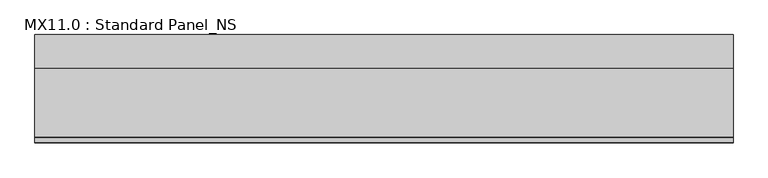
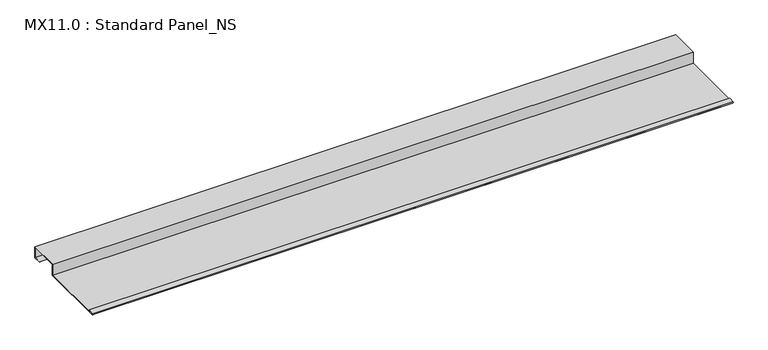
"""IFC4 building model written with IfcOpenShell, lengths in millimetres: proxy geometry, MX11.0 : Standard Panel_NS."""

from ifc_helpers import new_model, si_unit, point, frame, frame_2d, origin, place, context, project, spatial, polyline, circle_curve, trimmed, segment, composite_curve, outline, extrude, source, transform, mapped, element, save


def mx11_0_standard_panel_ns_a8d7d735(model_context):
    return source(origin(), model_context, "Body", "SweptSolid", [
        extrude(outline(composite_curve([segment(polyline([(0.0, 0.0), (-25.0, 0.0), (-25.0, 1.0), (-1.0, 1.0), (-1.0, 37.0), (-99.0, 37.0), (-99.0, -1.0), (-325.0510156, -1.0)]), True, "CONTINUOUS"), segment(trimmed(circle_curve(frame_2d((-324.3094696, 0.9153551)), 2.0538928), [point((-325.0510156, -1.0))], [point((-325.1748462, 2.778041))], False, "CARTESIAN"), True, "CONTINUOUS"), segment(polyline([(-325.1748462, 2.778041), (-308.7874714, 5.923107), (-308.5989911, 4.94103), (-324.8448691, 1.8231201)]), True, "CONTINUOUS"), segment(trimmed(circle_curve(frame_2d((-324.3094696, 0.9153551)), 1.0538928), [point((-324.8448691, 1.8231201))], [point((-324.8317866, 0.0))], True, "CARTESIAN"), True, "CONTINUOUS"), segment(polyline([(-324.8317866, 0.0), (-100.0, 0.0), (-100.0, 38.0), (0.0, 38.0), (0.0, 0.0)]), True, "CONTINUOUS")], self_intersect=False)), frame((0.0, 0.0, 0.0), z_axis=(1.0, 0.0, 0.0), x_axis=(0.0, 1.0, 0.0)), (0.0, 0.0, 1.0), 2100.0),
    ])


if __name__ == "__main__":
    model = new_model("IFC4")
    model_context = context("Model", 3, world=origin())
    ifc_project = project(units=[si_unit("LENGTHUNIT", "METRE", prefix="MILLI")], contexts=[model_context])
    site = spatial("IfcSite", under=ifc_project)
    building = spatial("IfcBuilding", under=site)
    placement = place(None, origin())
    mx11_0_standard_panel_ns_shape = mx11_0_standard_panel_ns_a8d7d735(model_context)
    element("IfcBuildingElementProxy", 1, Name="MX11.0 : Standard Panel_NS", ObjectType="MX11.0 : Standard Panel_NS", at=placement, inside=building, context=model_context, shape_type="MappedRepresentation", body=[
        mapped(mx11_0_standard_panel_ns_shape, transform((0.0, 0.0, 0.0), x_axis=(1.0, 0.0, 0.0), y_axis=(0.0, 1.0, 0.0), z_axis=(0.0, 0.0, 1.0))),
    ])
    save(model, "model.ifc")
